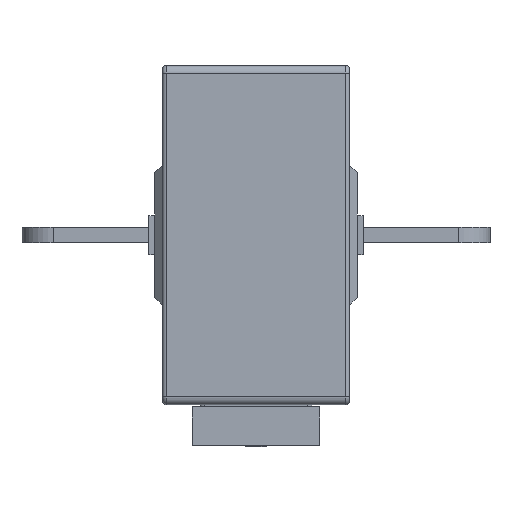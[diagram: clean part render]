
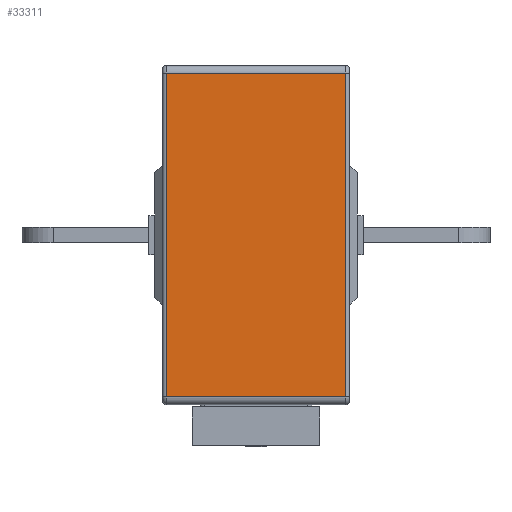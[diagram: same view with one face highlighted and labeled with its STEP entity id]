
A CAD part, left-side view. The second image highlights one B-rep face of the part: STEP entity #33311.
In plain terms, the highlighted planar face has unit normal (-1, 0, 0).
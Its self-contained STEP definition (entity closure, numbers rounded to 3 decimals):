
#323 = AXIS2_PLACEMENT_3D ( 'NONE', #32044, #22945, #3811 ) ;
#911 = PLANE ( 'NONE',  #323 ) ;
#1498 = ORIENTED_EDGE ( 'NONE', *, *, #29030, .T. ) ;
#2390 = VECTOR ( 'NONE', #35740, 1000. ) ;
#2816 = LINE ( 'NONE', #24408, #36634 ) ;
#3811 = DIRECTION ( 'NONE',  ( 0., -1., 0. ) ) ;
#3812 = VERTEX_POINT ( 'NONE', #8846 ) ;
#5022 = EDGE_LOOP ( 'NONE', ( #1498, #13132, #14655, #17215 ) ) ;
#6853 = CARTESIAN_POINT ( 'NONE',  ( -59.329, 112.114, -37.65 ) ) ;
#8846 = CARTESIAN_POINT ( 'NONE',  ( -59.329, 66.114, -37.65 ) ) ;
#9383 = EDGE_CURVE ( 'NONE', #11935, #25316, #37221, .T. ) ;
#10157 = EDGE_CURVE ( 'NONE', #3812, #11935, #17292, .T. ) ;
#10283 = VECTOR ( 'NONE', #31017, 1000. ) ;
#11935 = VERTEX_POINT ( 'NONE', #33336 ) ;
#13132 = ORIENTED_EDGE ( 'NONE', *, *, #10157, .T. ) ;
#14655 = ORIENTED_EDGE ( 'NONE', *, *, #9383, .T. ) ;
#14738 = DIRECTION ( 'NONE',  ( 0., -1., 0. ) ) ;
#17215 = ORIENTED_EDGE ( 'NONE', *, *, #33869, .T. ) ;
#17276 = DIRECTION ( 'NONE',  ( 0., 0., -1. ) ) ;
#17292 = LINE ( 'NONE', #27776, #10283 ) ;
#22407 = VERTEX_POINT ( 'NONE', #6853 ) ;
#22945 = DIRECTION ( 'NONE',  ( 1., 0., 0. ) ) ;
#23054 = CARTESIAN_POINT ( 'NONE',  ( -59.329, 89.114, 45.35 ) ) ;
#24408 = CARTESIAN_POINT ( 'NONE',  ( -59.329, 89.114, -37.65 ) ) ;
#25038 = LINE ( 'NONE', #27782, #40496 ) ;
#25316 = VERTEX_POINT ( 'NONE', #40294 ) ;
#27776 = CARTESIAN_POINT ( 'NONE',  ( -59.329, 66.114, 45.35 ) ) ;
#27782 = CARTESIAN_POINT ( 'NONE',  ( -59.329, 112.114, -37.65 ) ) ;
#29030 = EDGE_CURVE ( 'NONE', #22407, #3812, #2816, .T. ) ;
#30116 = FACE_OUTER_BOUND ( 'NONE', #5022, .T. ) ;
#31017 = DIRECTION ( 'NONE',  ( 0., 0., 1. ) ) ;
#32044 = CARTESIAN_POINT ( 'NONE',  ( -59.329, 89.114, 47.35 ) ) ;
#33311 = ADVANCED_FACE ( 'NONE', ( #30116 ), #911, .F. ) ;
#33336 = CARTESIAN_POINT ( 'NONE',  ( -59.329, 66.114, 45.35 ) ) ;
#33869 = EDGE_CURVE ( 'NONE', #25316, #22407, #25038, .T. ) ;
#35740 = DIRECTION ( 'NONE',  ( 0., 1., 0. ) ) ;
#36634 = VECTOR ( 'NONE', #14738, 1000. ) ;
#37221 = LINE ( 'NONE', #23054, #2390 ) ;
#40294 = CARTESIAN_POINT ( 'NONE',  ( -59.329, 112.114, 45.35 ) ) ;
#40496 = VECTOR ( 'NONE', #17276, 1000. ) ;
